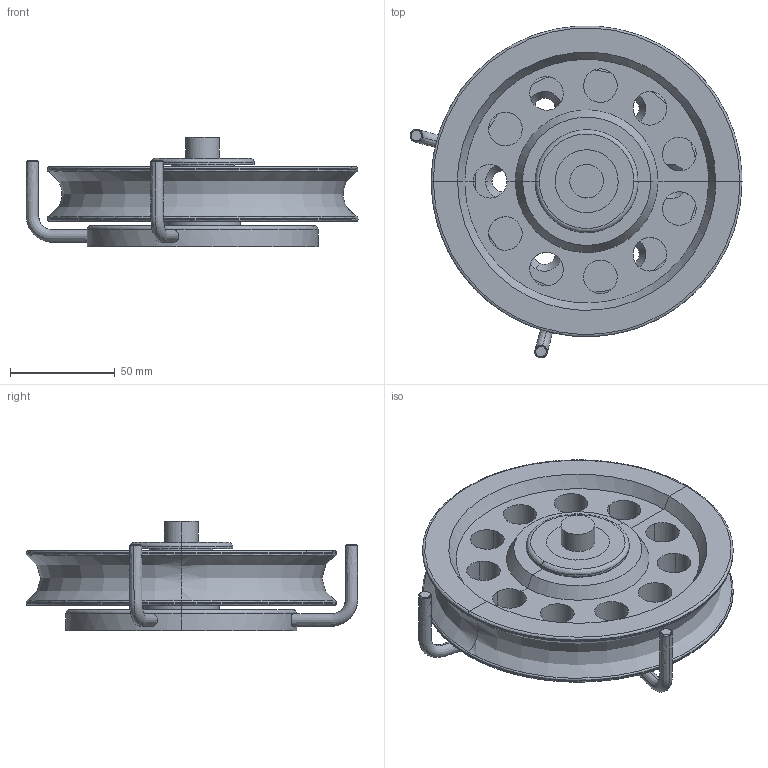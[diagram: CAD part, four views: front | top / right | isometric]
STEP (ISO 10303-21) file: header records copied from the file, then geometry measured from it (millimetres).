
FILE_DESCRIPTION(/* description */ (''),/* implementation_level */ '2;1');
FILE_NAME(/* name */ 'POULIE SIMPLE PLAT PONT D 150',/* time_stamp */ '2005-05-31T09:03:21+02:00',/* author */ (''),/* organization */ (''),/* preprocessor_version */ 'ST-DEVELOPER v8',/* originating_system */ '',/* authorisation */ '');
FILE_SCHEMA (('CONFIG_CONTROL_DESIGN'));
Length unit declared in the file: millimetre
Products named in the file (1): 1
Bounding box: 158.13 x 158.03 x 52 mm (x, y, z)
Volume: 366649.1 mm3; surface area: 100884.8 mm2
Topology: 9 solids, 9 shells, 206 faces, 453 edges, 262 vertices
Faces by surface type: bspline 206
Entity records: 9277 total; most frequent: CARTESIAN_POINT 6582, ORIENTED_EDGE 902, EDGE_CURVE 451, VERTEX_POINT 274, EDGE_LOOP 247, B_SPLINE_CURVE_WITH_KNOTS 222, ADVANCED_FACE 206, FACE_OUTER_BOUND 206
